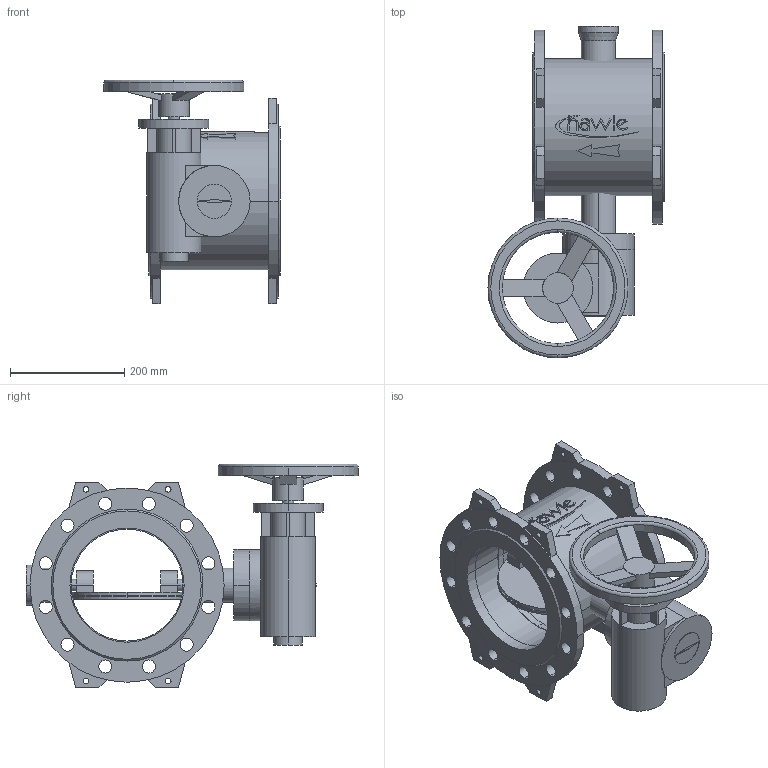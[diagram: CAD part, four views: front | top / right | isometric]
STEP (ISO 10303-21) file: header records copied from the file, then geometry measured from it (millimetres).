
FILE_DESCRIPTION(('STEP AP214'),'1');
FILE_NAME('S:/EK/USER/CAT6/3DHomepage_27-04-2012/neu_08-01-2013/9881K/9881K_PN16_DN200_7800.STP','2013-02-26T15:20:11',(' '),(' '),'Spatial InterOp 3D',' ',' ');
FILE_SCHEMA(('automotive_design'));
Length unit declared in the file: millimetre
Products named in the file (45): 3D-Objekt
Bounding box: 308.5 x 581.5 x 392 mm (x, y, z)
Volume: 9405314.4 mm3; surface area: 1140220.2 mm2
Topology: 45 solids, 45 shells, 390 faces, 889 edges, 592 vertices
Faces by surface type: plane 210, cylinder 170, cone 6, torus 4
Entity records: 15496 total; most frequent: DIRECTION 2145, CARTESIAN_POINT 1990, ORIENTED_EDGE 1778, EDGE_CURVE 889, AXIS2_PLACEMENT_3D 823, VERTEX_POINT 592, LINE 499, VECTOR 499
